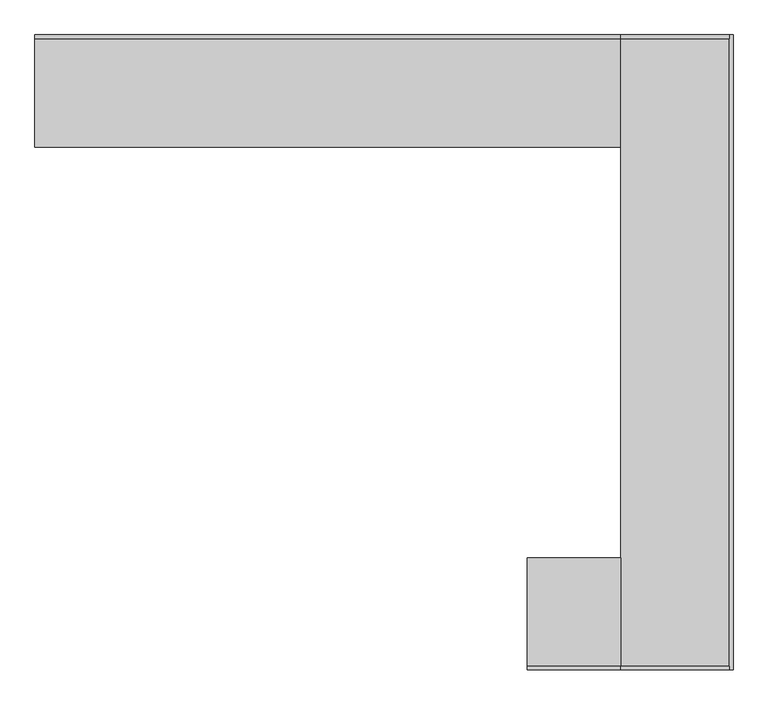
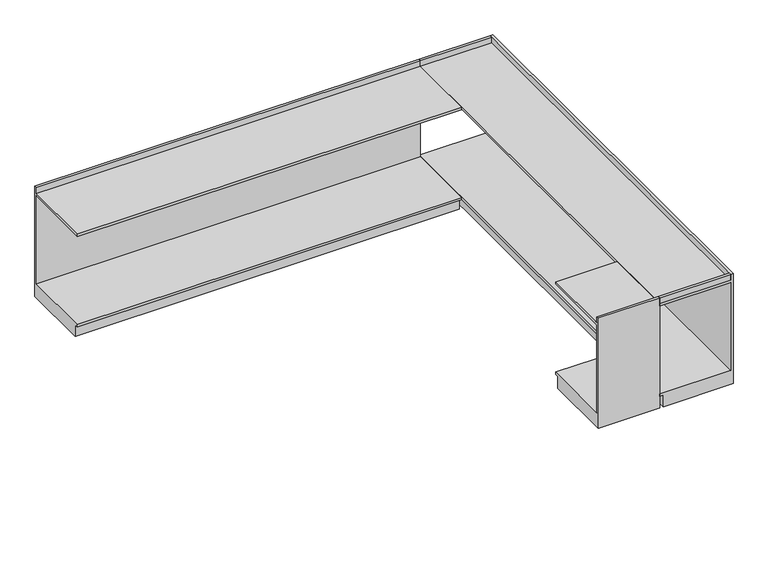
"""IFC4 building model written with IfcOpenShell, lengths in millimetres: furniture geometry, ARQ_MOB_MESONES_COCINA : MESONES_COCINA."""

from ifc_helpers import new_model, si_unit, frame, origin, place, context, project, spatial, polyline, outline, extrude, source, transform, mapped, element, save


def furniture_b7d6b4a0(model_context):
    return source(origin(), model_context, "Body", "SweptSolid", [
        extrude(outline(polyline([(14425.5015264, -3410.6637592), (14425.5015264, -3390.6637592), (15005.5015264, -3390.6637592), (15005.5015264, -3410.6637592), (14425.5015264, -3410.6637592)])), frame((0.0, 0.0, 900.0), z_axis=(0.0, 0.0, 1.0), x_axis=(1.0, 0.0, 0.0)), (0.0, 0.0, 1.0), 50.0),
        extrude(outline(polyline([(14425.5015264, -6790.6055729), (14425.5015264, -6770.6055729), (15005.5015264, -6770.6055729), (15005.5015264, -6790.6055729), (14425.5015264, -6790.6055729)])), frame((0.0, 0.0, 900.0), z_axis=(0.0, 0.0, 1.0), x_axis=(1.0, 0.0, 0.0)), (0.0, 0.0, 1.0), 50.0),
        extrude(outline(polyline([(-6220.6055729, 100.0), (-6220.6055729, 0.0), (-6790.6055729, 0.0), (-6790.6055729, 950.0), (-6770.6055729, 950.0), (-6770.6055729, 900.0), (-6190.6055729, 900.0), (-6190.6055729, 880.0), (-6770.6055729, 880.0), (-6770.6055729, 120.0), (-6190.6055729, 120.0), (-6190.6055729, 100.0), (-6220.6055729, 100.0)])), frame((13925.5015264, 0.0, 0.0), z_axis=(1.0, 0.0, 0.0), x_axis=(0.0, 1.0, 0.0)), (0.0, 0.0, 1.0), 500.0),
        extrude(outline(polyline([(100.0, 14455.5015264), (0.0, 14455.5015264), (0.0, 15025.5015264), (950.0, 15025.5015264), (950.0, 15005.5015264), (900.0, 15005.5015264), (900.0, 14425.5015264), (880.0, 14425.5015264), (880.0, 15005.5015264), (120.0, 15005.5015264), (120.0, 14425.5015264), (100.0, 14425.5015264), (100.0, 14455.5015264)])), frame((0.0, -6790.6055729, 0.0), z_axis=(0.0, 1.0, 0.0), x_axis=(0.0, 0.0, 1.0)), (0.0, 0.0, 1.0), 3399.9418137),
        extrude(outline(polyline([(-3960.6637592, 100.0), (-3990.6637592, 100.0), (-3990.6637592, 120.0), (-3410.6637592, 120.0), (-3410.6637592, 880.0), (-3990.6637592, 880.0), (-3990.6637592, 900.0), (-3410.6637592, 900.0), (-3410.6637592, 950.0), (-3390.6637592, 950.0), (-3390.6637592, 0.0), (-3960.6637592, 0.0), (-3960.6637592, 100.0)])), frame((11289.9777625, 0.0, 0.0), z_axis=(1.0, 0.0, 0.0), x_axis=(0.0, 1.0, 0.0)), (0.0, 0.0, 1.0), 3135.5237639),
    ])


if __name__ == "__main__":
    model = new_model("IFC4")
    model_context = context("Model", 3, world=origin())
    ifc_project = project(units=[si_unit("LENGTHUNIT", "METRE", prefix="MILLI")], contexts=[model_context])
    site = spatial("IfcSite", under=ifc_project)
    building = spatial("IfcBuilding", under=site)
    placement = place(None, origin())
    furniture_shape = furniture_b7d6b4a0(model_context)
    element("IfcFurniture", 1, ObjectType="ARQ_MOB_MESONES_COCINA : MESONES_COCINA", at=placement, inside=building, context=model_context, shape_type="MappedRepresentation", body=[
        mapped(furniture_shape, transform((0.0, 0.0, 0.0), x_axis=(1.0, 0.0, 0.0), y_axis=(0.0, 1.0, 0.0), z_axis=(0.0, 0.0, 1.0))),
    ])
    save(model, "model.ifc")
